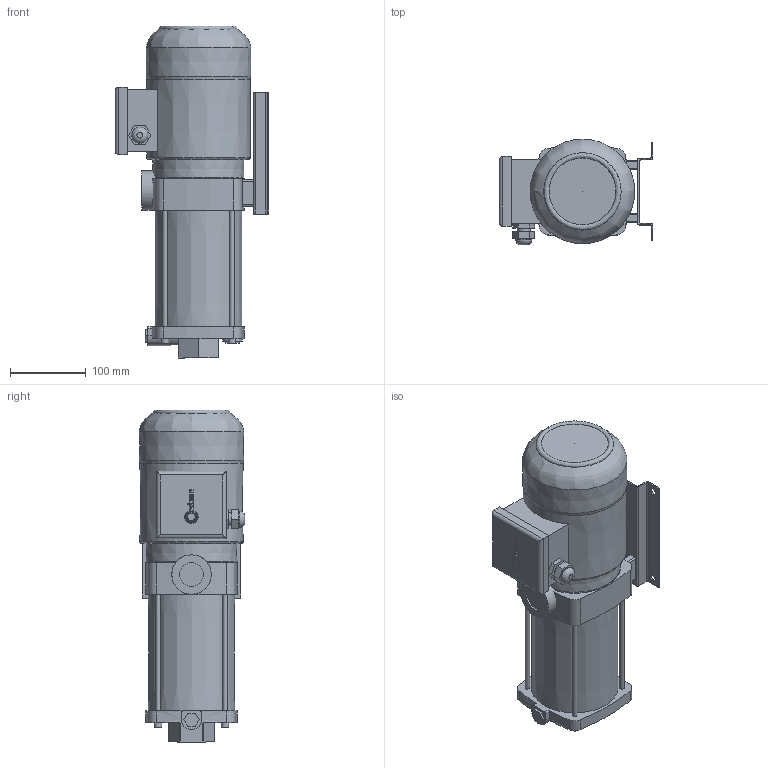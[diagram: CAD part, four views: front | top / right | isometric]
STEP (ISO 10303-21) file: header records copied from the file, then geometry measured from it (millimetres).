
FILE_DESCRIPTION(/* description */ ('Unknown'),/* implementation_level */ '2;1');
FILE_NAME(/* name */ 'hd06',/* time_stamp */ '2025-06-17T14:56:55+03:00',/* author */ ('Unknown'),/* organization */ ('Unknown'),/* preprocessor_version */ 'ST-DEVELOPER v16.7',/* originating_system */ 'DEX',/* authorisation */ $);
FILE_SCHEMA (('AUTOMOTIVE_DESIGN {1 0 10303 214 3 1 1}'));
Length unit declared in the file: millimetre
Products named in the file (1): hd06
Bounding box: 203 x 139.29 x 438.08 mm (x, y, z)
Volume: 5696813.4 mm3; surface area: 298480.3 mm2
Topology: 1 solids, 1 shells, 254 faces, 664 edges, 441 vertices
Faces by surface type: plane 105, bspline 71, cylinder 63, cone 12, torus 3
Full cylindrical faces by diameter (mm): 6 x4, 9 x4, 9.5 x4, 17 x1, 21.5 x1, 26 x1, 31 x1, 39.268 x1, 52 x1
Entity records: 11133 total; most frequent: CARTESIAN_POINT 5390, ORIENTED_EDGE 1246, DIRECTION 975, EDGE_CURVE 623, VERTEX_POINT 430, AXIS2_PLACEMENT_3D 333, FACE_BOUND 331, EDGE_LOOP 330
